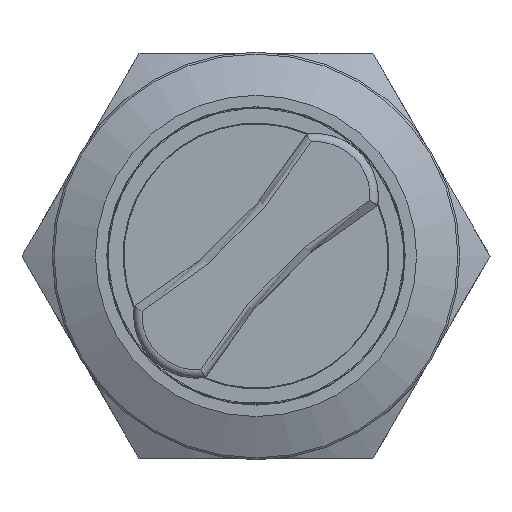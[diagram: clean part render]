
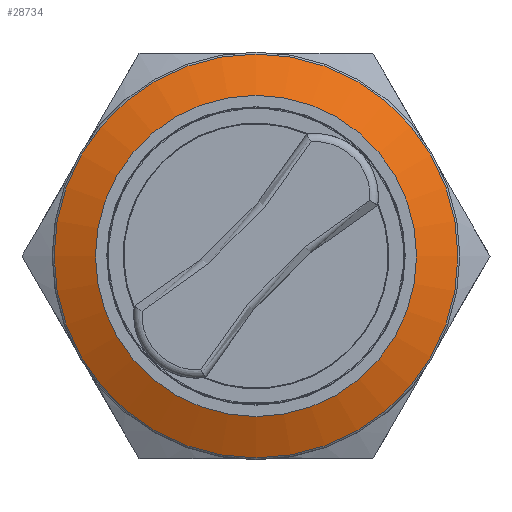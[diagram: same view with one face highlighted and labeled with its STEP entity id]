
A CAD part, top view. The second image highlights one B-rep face of the part: STEP entity #28734.
In plain terms, the highlighted conical face has half-angle 65.638 degrees and reference radius 12.5 mm.
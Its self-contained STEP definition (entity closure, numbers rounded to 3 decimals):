
#866=CONICAL_SURFACE('',#34286,12.5,65.638);
#1500=CIRCLE('',#34272,9.85);
#1507=CIRCLE('',#34285,12.383);
#5080=EDGE_LOOP('',(#11666));
#5081=EDGE_LOOP('',(#11667));
#11666=ORIENTED_EDGE('',*,*,#16545,.T.);
#11667=ORIENTED_EDGE('',*,*,#16534,.F.);
#16534=EDGE_CURVE('',#31430,#31430,#1500,.T.);
#16545=EDGE_CURVE('',#31439,#31439,#1507,.T.);
#28734=ADVANCED_FACE('',(#29132,#29133),#866,.T.);
#29132=FACE_BOUND('',#5080,.T.);
#29133=FACE_BOUND('',#5081,.T.);
#31430=VERTEX_POINT('',#51958);
#31439=VERTEX_POINT('',#51984);
#34272=AXIS2_PLACEMENT_3D('',#51957,#40339,#40340);
#34285=AXIS2_PLACEMENT_3D('',#51983,#40369,#40370);
#34286=AXIS2_PLACEMENT_3D('',#51985,#40371,#40372);
#40339=DIRECTION('',(0.,0.,1.));
#40340=DIRECTION('',(1.,0.,0.));
#40369=DIRECTION('',(0.,0.,1.));
#40370=DIRECTION('',(1.,0.,0.));
#40371=DIRECTION('',(0.,0.,-1.));
#40372=DIRECTION('',(-1.,0.,0.));
#51957=CARTESIAN_POINT('',(0.,0.,0.935));
#51958=CARTESIAN_POINT('',(9.85,0.,0.935));
#51983=CARTESIAN_POINT('',(0.,0.,-0.212));
#51984=CARTESIAN_POINT('',(12.383,0.,-0.212));
#51985=CARTESIAN_POINT('',(0.,0.,-0.265));
